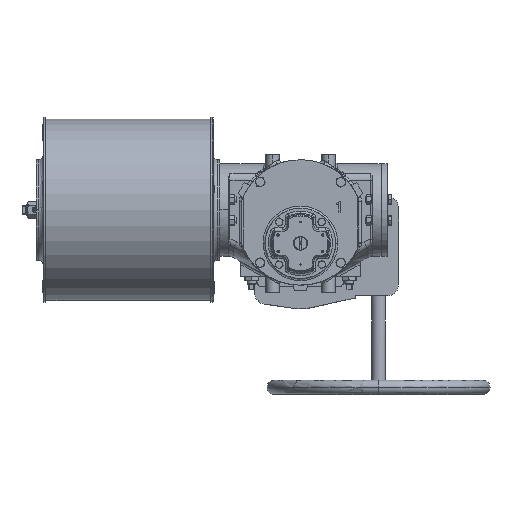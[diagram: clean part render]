
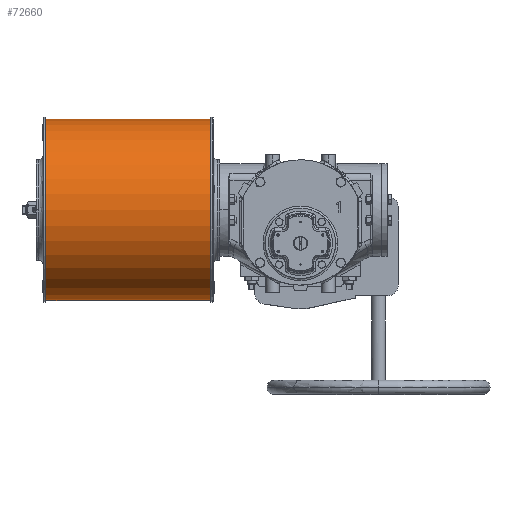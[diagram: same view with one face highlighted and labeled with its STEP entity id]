
A CAD part, top view. The second image highlights one B-rep face of the part: STEP entity #72660.
In plain terms, the highlighted cylindrical face has radius 162.5 mm (diameter 325 mm), a partial arc.
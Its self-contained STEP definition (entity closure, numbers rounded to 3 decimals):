
#1341 = CARTESIAN_POINT ( 'NONE',  ( -161.5, 22.5, 57.5 ) ) ;
#2467 = DIRECTION ( 'NONE',  ( 0., -1., 0. ) ) ;
#3360 = EDGE_LOOP ( 'NONE', ( #56545, #70454, #76211, #62575 ) ) ;
#4046 = CARTESIAN_POINT ( 'NONE',  ( -161.5, -140., 57.5 ) ) ;
#5492 = CARTESIAN_POINT ( 'NONE',  ( -456.5, 22.5, 57.5 ) ) ;
#5601 = CARTESIAN_POINT ( 'NONE',  ( -456.5, 185., 57.5 ) ) ;
#14497 = DIRECTION ( 'NONE',  ( 0., -1., 0. ) ) ;
#19186 = CARTESIAN_POINT ( 'NONE',  ( -161.5, 185., 57.5 ) ) ;
#19648 = EDGE_CURVE ( 'NONE', #29936, #72141, #56570, .T. ) ;
#22288 = VECTOR ( 'NONE', #70830, 1000. ) ;
#29167 = DIRECTION ( 'NONE',  ( -1., 0., 0. ) ) ;
#29936 = VERTEX_POINT ( 'NONE', #64267 ) ;
#34019 = CIRCLE ( 'NONE', #55657, 162.5 ) ;
#39093 = CYLINDRICAL_SURFACE ( 'NONE', #48385, 162.5 ) ;
#42378 = VERTEX_POINT ( 'NONE', #58249 ) ;
#46557 = EDGE_CURVE ( 'NONE', #29936, #42378, #34019, .T. ) ;
#48385 = AXIS2_PLACEMENT_3D ( 'NONE', #1341, #77617, #14497 ) ;
#50233 = DIRECTION ( 'NONE',  ( -1., 0., 0. ) ) ;
#51800 = FACE_OUTER_BOUND ( 'NONE', #3360, .T. ) ;
#52386 = EDGE_CURVE ( 'NONE', #67046, #72141, #80218, .T. ) ;
#55657 = AXIS2_PLACEMENT_3D ( 'NONE', #60505, #29167, #2467 ) ;
#55753 = CARTESIAN_POINT ( 'NONE',  ( -456.5, -140., 57.5 ) ) ;
#56545 = ORIENTED_EDGE ( 'NONE', *, *, #46557, .T. ) ;
#56570 = LINE ( 'NONE', #4046, #78456 ) ;
#57189 = DIRECTION ( 'NONE',  ( 0., -1., 0. ) ) ;
#58249 = CARTESIAN_POINT ( 'NONE',  ( -161.5, 185., 57.5 ) ) ;
#60505 = CARTESIAN_POINT ( 'NONE',  ( -161.5, 22.5, 57.5 ) ) ;
#62575 = ORIENTED_EDGE ( 'NONE', *, *, #19648, .F. ) ;
#63105 = DIRECTION ( 'NONE',  ( 1., 0., 0. ) ) ;
#64067 = LINE ( 'NONE', #19186, #22288 ) ;
#64267 = CARTESIAN_POINT ( 'NONE',  ( -161.5, -140., 57.5 ) ) ;
#67046 = VERTEX_POINT ( 'NONE', #5601 ) ;
#67304 = EDGE_CURVE ( 'NONE', #42378, #67046, #64067, .T. ) ;
#70454 = ORIENTED_EDGE ( 'NONE', *, *, #67304, .T. ) ;
#70830 = DIRECTION ( 'NONE',  ( -1., 0., 0. ) ) ;
#72141 = VERTEX_POINT ( 'NONE', #55753 ) ;
#72660 = ADVANCED_FACE ( 'NONE', ( #51800 ), #39093, .T. ) ;
#74871 = AXIS2_PLACEMENT_3D ( 'NONE', #5492, #63105, #57189 ) ;
#76211 = ORIENTED_EDGE ( 'NONE', *, *, #52386, .T. ) ;
#77617 = DIRECTION ( 'NONE',  ( -1., 0., 0. ) ) ;
#78456 = VECTOR ( 'NONE', #50233, 1000. ) ;
#80218 = CIRCLE ( 'NONE', #74871, 162.5 ) ;
